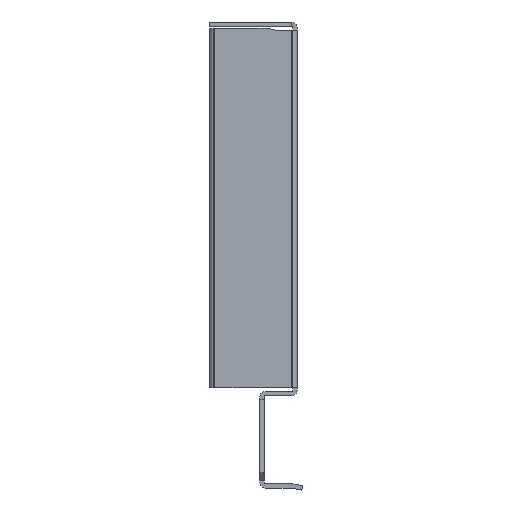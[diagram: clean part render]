
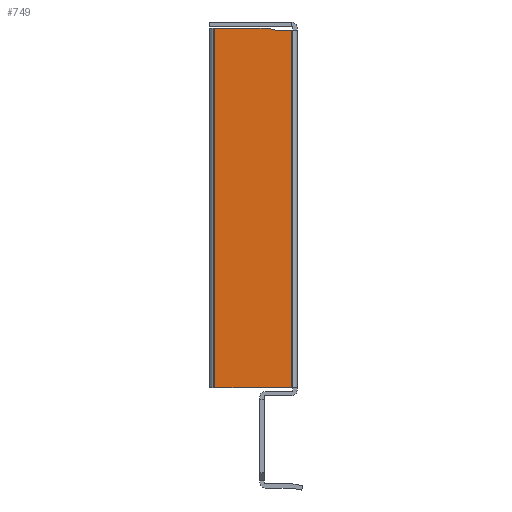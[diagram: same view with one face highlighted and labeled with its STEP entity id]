
A CAD part, left-side view. The second image highlights one B-rep face of the part: STEP entity #749.
In plain terms, the highlighted planar face has unit normal (-1, 0, 0).
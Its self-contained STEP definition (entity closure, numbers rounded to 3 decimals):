
#77 = DIRECTION ( 'NONE',  ( 0., -1., 0. ) ) ;
#78 = DIRECTION ( 'NONE',  ( -1., 0., 0. ) ) ;
#79 = CARTESIAN_POINT ( 'NONE',  ( -430., -5., 101.385 ) ) ;
#81 = PLANE ( 'NONE',  #633 ) ;
#85 = VERTEX_POINT ( 'NONE', #446 ) ;
#135 = VERTEX_POINT ( 'NONE', #433 ) ;
#178 = VERTEX_POINT ( 'NONE', #423 ) ;
#278 = VERTEX_POINT ( 'NONE', #399 ) ;
#375 = CARTESIAN_POINT ( 'NONE',  ( -430., -5., 82.5 ) ) ;
#377 = CARTESIAN_POINT ( 'NONE',  ( -430., -2., 82.5 ) ) ;
#399 = CARTESIAN_POINT ( 'NONE',  ( -430., 9., 82.9 ) ) ;
#423 = CARTESIAN_POINT ( 'NONE',  ( -430., -0.507, 82.9 ) ) ;
#433 = CARTESIAN_POINT ( 'NONE',  ( -430., 9., 17.5 ) ) ;
#446 = CARTESIAN_POINT ( 'NONE',  ( -430., -5., 17.5 ) ) ;
#492 = VERTEX_POINT ( 'NONE', #377 ) ;
#494 = VERTEX_POINT ( 'NONE', #375 ) ;
#633 = AXIS2_PLACEMENT_3D ( 'NONE', #79, #78, #77 ) ;
#749 = ADVANCED_FACE ( 'NONE', ( #2068 ), #81, .T. ) ;
#828 = EDGE_CURVE ( 'NONE', #278, #135, #2171, .T. ) ;
#829 = EDGE_CURVE ( 'NONE', #492, #494, #2174, .T. ) ;
#830 = EDGE_CURVE ( 'NONE', #178, #492, #2176, .T. ) ;
#831 = EDGE_CURVE ( 'NONE', #494, #85, #2178, .T. ) ;
#1057 = EDGE_LOOP ( 'NONE', ( #1833, #1834, #1835, #1836, #1837, #1838 ) ) ;
#1140 = DIRECTION ( 'NONE',  ( 0., 1., 0. ) ) ;
#1141 = CARTESIAN_POINT ( 'NONE',  ( -430., -5., 82.9 ) ) ;
#1180 = DIRECTION ( 'NONE',  ( 0., 1., 0. ) ) ;
#1182 = CARTESIAN_POINT ( 'NONE',  ( -430., -5., 17.5 ) ) ;
#1373 = DIRECTION ( 'NONE',  ( 0., 0., -1. ) ) ;
#1377 = CARTESIAN_POINT ( 'NONE',  ( -430., -5., 101.385 ) ) ;
#1379 = DIRECTION ( 'NONE',  ( 0., -0.966, -0.259 ) ) ;
#1382 = CARTESIAN_POINT ( 'NONE',  ( -430., 0.612, 83.2 ) ) ;
#1386 = DIRECTION ( 'NONE',  ( 0., -1., 0. ) ) ;
#1391 = CARTESIAN_POINT ( 'NONE',  ( -430., -2., 82.5 ) ) ;
#1392 = DIRECTION ( 'NONE',  ( 0., 0., -1. ) ) ;
#1394 = CARTESIAN_POINT ( 'NONE',  ( -430., 9., 101.385 ) ) ;
#1404 = EDGE_CURVE ( 'NONE', #85, #135, #2273, .T. ) ;
#1415 = EDGE_CURVE ( 'NONE', #178, #278, #2290, .T. ) ;
#1833 = ORIENTED_EDGE ( 'NONE', *, *, #829, .F. ) ;
#1834 = ORIENTED_EDGE ( 'NONE', *, *, #830, .F. ) ;
#1835 = ORIENTED_EDGE ( 'NONE', *, *, #1415, .T. ) ;
#1836 = ORIENTED_EDGE ( 'NONE', *, *, #828, .T. ) ;
#1837 = ORIENTED_EDGE ( 'NONE', *, *, #1404, .F. ) ;
#1838 = ORIENTED_EDGE ( 'NONE', *, *, #831, .F. ) ;
#2068 = FACE_OUTER_BOUND ( 'NONE', #1057, .T. ) ;
#2171 = LINE ( 'NONE', #1394, #2173 ) ;
#2173 = VECTOR ( 'NONE', #1392, 1000. ) ;
#2174 = LINE ( 'NONE', #1391, #2175 ) ;
#2175 = VECTOR ( 'NONE', #1386, 1000. ) ;
#2176 = LINE ( 'NONE', #1382, #2177 ) ;
#2177 = VECTOR ( 'NONE', #1379, 1000. ) ;
#2178 = LINE ( 'NONE', #1377, #2179 ) ;
#2179 = VECTOR ( 'NONE', #1373, 1000. ) ;
#2273 = LINE ( 'NONE', #1182, #2275 ) ;
#2275 = VECTOR ( 'NONE', #1180, 1000. ) ;
#2290 = LINE ( 'NONE', #1141, #2292 ) ;
#2292 = VECTOR ( 'NONE', #1140, 1000. ) ;
